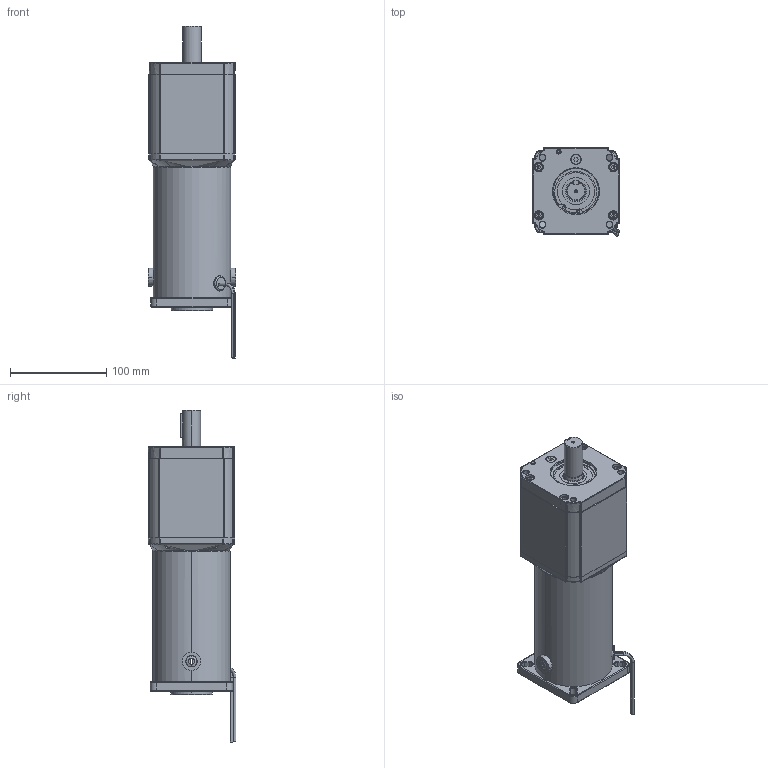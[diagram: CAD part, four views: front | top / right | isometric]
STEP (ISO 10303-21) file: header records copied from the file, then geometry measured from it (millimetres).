
FILE_DESCRIPTION (( 'STEP AP214' ), '1' );
FILE_NAME ('PM8014HV-PL7300_2S.STEP', '2013-08-23T13:51:23', ( '' ), ( '' ), 'SwSTEP 2.0', 'SolidWorks 2013', '' );
FILE_SCHEMA (( 'AUTOMOTIVE_DESIGN' ));
Length unit declared in the file: inch
Products named in the file (1): PM8014HV-PL7300_2S
Bounding box: 90.51 x 91.34 x 344.85 mm (x, y, z)
Surface area: 110644.7 mm2 (no closed solid volume)
Topology: 0 solids, 38 shells, 637 faces, 1929 edges, 1283 vertices
Faces by surface type: cylinder 260, plane 157, torus 86, bspline 62, cone 61, sphere 11
Entity records: 32521 total; most frequent: CARTESIAN_POINT 7274, DIRECTION 3814, ORIENTED_EDGE 3166, EDGE_CURVE 1891, AXIS2_PLACEMENT_3D 1538, VERTEX_POINT 1275, CIRCLE 962, LINE 738
